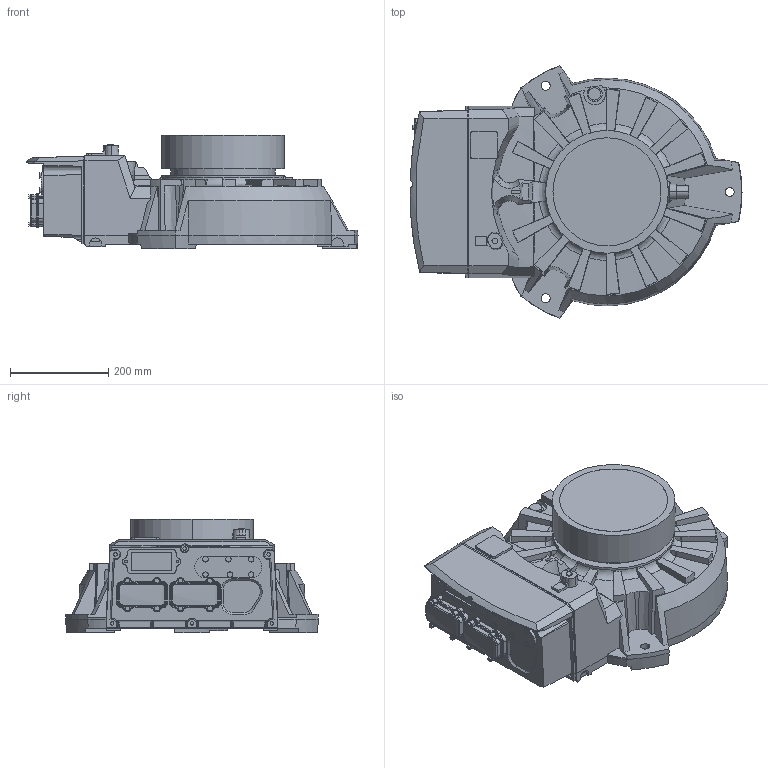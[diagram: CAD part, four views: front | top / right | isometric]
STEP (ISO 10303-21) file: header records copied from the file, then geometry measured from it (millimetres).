
FILE_DESCRIPTION (( 'STEP AP214' ), '1' );
FILE_NAME ('IRB2600-TYPEC_12kg-165_BASE_CAD_rev01.STEP', '2018-06-26T01:25:11', ( 'ABB' ), ( 'ABB' ), 'SwSTEP 2.0', 'SolidWorks 2016', '' );
FILE_SCHEMA (( 'AUTOMOTIVE_DESIGN' ));
Length unit declared in the file: millimetre
Products named in the file (1): IRB2600-TYPEC_12kg-165_BASE_CAD_rev01
Bounding box: 676 x 514.54 x 232.1 mm (x, y, z)
Volume: 33656078.5 mm3; surface area: 975451 mm2
Topology: 1 solids, 1 shells, 973 faces, 2540 edges, 1612 vertices
Faces by surface type: plane 395, cone 235, cylinder 167, bspline 167, torus 9
Entity records: 40593 total; most frequent: CARTESIAN_POINT 17794, ORIENTED_EDGE 5076, DIRECTION 4219, EDGE_CURVE 2538, VERTEX_POINT 1612, AXIS2_PLACEMENT_3D 1557, VECTOR 1105, LINE 1105
